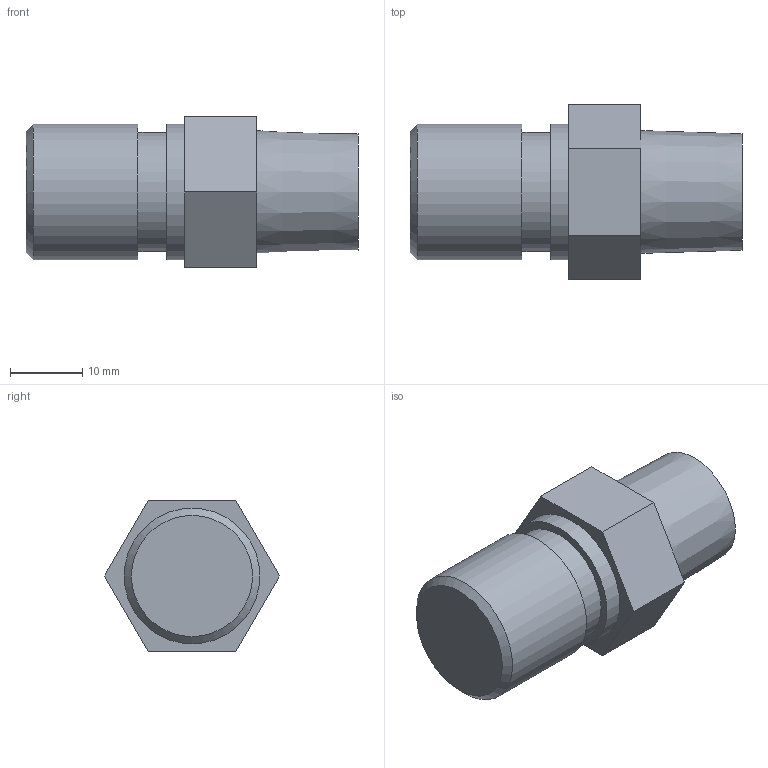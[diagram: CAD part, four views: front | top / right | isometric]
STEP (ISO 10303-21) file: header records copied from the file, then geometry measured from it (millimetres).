
FILE_DESCRIPTION((''),'2;1');
FILE_NAME('Z:\客先\あ行\アオイ\99_その他\3D_DATA\CPR_Series\8CPR-SPV-R\STEP\203\CPR-SPV-R3-8.ipt.stp','2008-07-04T11:08:46',(''),(''),'Autodesk Inventor 2009','Autodesk Inventor 2009','');
FILE_SCHEMA(('CONFIG_CONTROL_DESIGN'));
Length unit declared in the file: millimetre
Products named in the file (1): CPR-SPV-R3-8
Bounding box: 46 x 24.25 x 21 mm (x, y, z)
Volume: 12659.6 mm3; surface area: 3559.4 mm2
Topology: 1 solids, 1 shells, 17 faces, 32 edges, 21 vertices
Faces by surface type: plane 12, cylinder 3, cone 2
Full cylindrical faces by diameter (mm): 16.5 x1, 18.8 x2
Entity records: 419 total; most frequent: DIRECTION 72, CARTESIAN_POINT 66, ORIENTED_EDGE 54, AXIS2_PLACEMENT_3D 27, EDGE_CURVE 27, EDGE_LOOP 26, VERTEX_POINT 21, VECTOR 18
